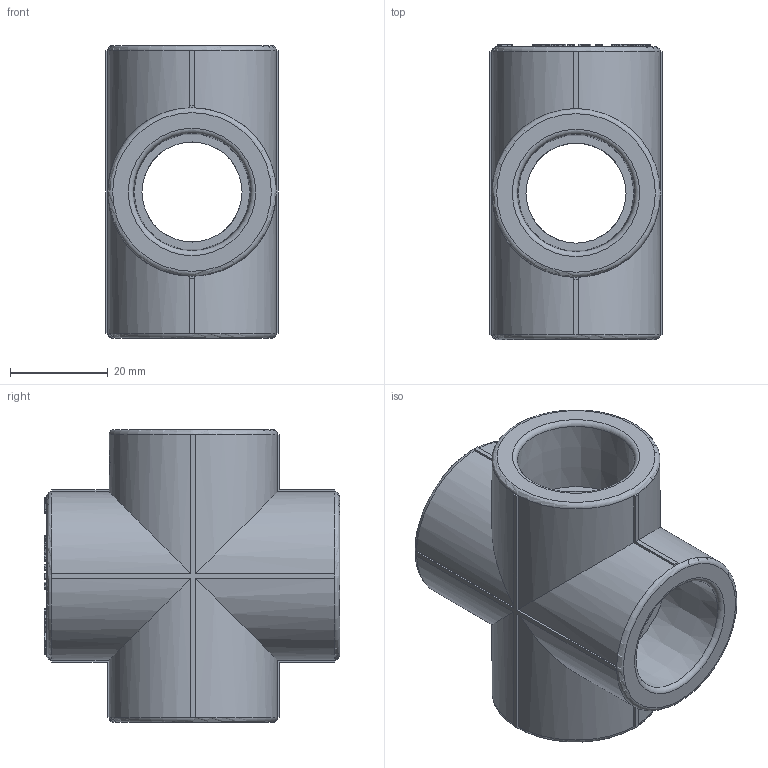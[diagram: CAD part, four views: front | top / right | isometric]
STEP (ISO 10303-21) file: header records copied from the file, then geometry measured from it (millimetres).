
FILE_DESCRIPTION(('STEP AP203'), '1');
FILE_NAME('ÂÐ.752261.005 - VTp.741.0.025', '', ('UNSPECIFIED'), ('UNSPECIFIED'), 'C3D Converter', 'C3D Toolkit', '');
FILE_SCHEMA(('CONFIG_CONTROL_DESIGN'));
Length unit declared in the file: millimetre
Products named in the file (1): ВР.752261.005
Bounding box: 35.3 x 60.5 x 60 mm (x, y, z)
Volume: 43204.9 mm3; surface area: 17414.1 mm2
Topology: 1 solids, 1 shells, 1078 faces, 3011 edges, 1991 vertices
Faces by surface type: extrusion 613, plane 408, cylinder 45, torus 8, cone 4
Full cylindrical faces by diameter (mm): 6 x1, 20.5 x4
Entity records: 39478 total; most frequent: CARTESIAN_POINT 15080, ORIENTED_EDGE 5988, DIRECTION 3064, EDGE_CURVE 2994, VECTOR 2022, VERTEX_POINT 1991, B_SPLINE_CURVE_WITH_KNOTS 1840, LINE 1409
